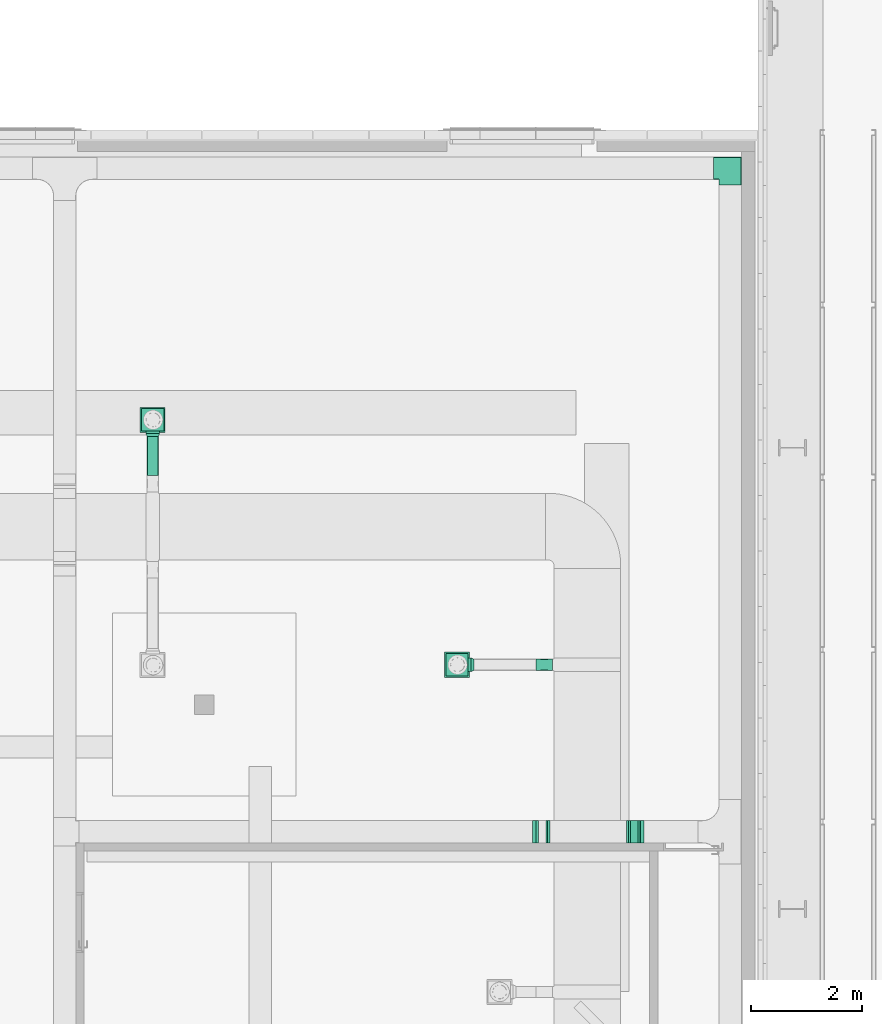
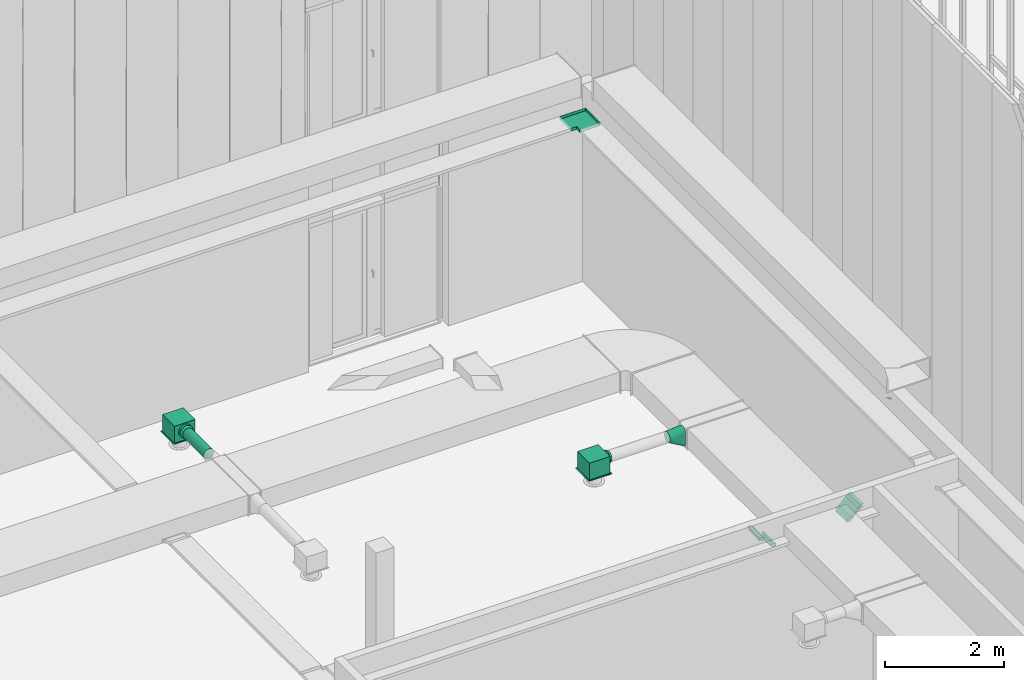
# One storey, part 285 of 302: 8 flow fittings, 2 flow segments, 2 flow terminals.
"""IFC2X3 building model written with IfcOpenShell, lengths in metres."""

from ifc_helpers import new_model, entity, si_unit, converted_unit, derived_unit, direction, frame, frame_2d, origin, origin_2d_with_axis, place, context, subcontext, project, spatial, rectangle, circle, extrude, faceted_brep, source, transform, mapped, material, material_list, type_object, type_shapes, element, save


model = new_model("IFC2X3")

# Units and contexts
model_context = context("Model", 3, precision=1e-05, world=origin(), true_north=direction((6.12303176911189e-17, 1.0)))
body_context = subcontext(model_context, "Body", "Model", "MODEL_VIEW")
ifc_project = project(units=[si_unit("LENGTHUNIT", "METRE"), si_unit("AREAUNIT", "SQUARE_METRE"), si_unit("VOLUMEUNIT", "CUBIC_METRE"), converted_unit("PLANEANGLEUNIT", "DEGREE", entity("IfcRatioMeasure", 0.0174532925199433), si_unit("PLANEANGLEUNIT", "RADIAN"), dimensions=[0, 0, 0, 0, 0, 0, 0]), si_unit("MASSUNIT", "GRAM", prefix="KILO"), derived_unit("MASSDENSITYUNIT", [(si_unit("MASSUNIT", "GRAM", prefix="KILO"), 1), (si_unit("LENGTHUNIT", "METRE"), -3)]), derived_unit("MOMENTOFINERTIAUNIT", [(si_unit("LENGTHUNIT", "METRE"), 4)]), si_unit("TIMEUNIT", "SECOND"), si_unit("FREQUENCYUNIT", "HERTZ"), si_unit("THERMODYNAMICTEMPERATUREUNIT", "DEGREE_CELSIUS"), derived_unit("THERMALTRANSMITTANCEUNIT", [(si_unit("MASSUNIT", "GRAM", prefix="KILO"), 1), (si_unit("THERMODYNAMICTEMPERATUREUNIT", "KELVIN"), -1), (si_unit("TIMEUNIT", "SECOND"), -3)]), derived_unit("VOLUMETRICFLOWRATEUNIT", [(si_unit("LENGTHUNIT", "METRE"), 3), (si_unit("TIMEUNIT", "SECOND"), -1)]), si_unit("ELECTRICCURRENTUNIT", "AMPERE"), si_unit("ELECTRICVOLTAGEUNIT", "VOLT"), si_unit("POWERUNIT", "WATT"), si_unit("FORCEUNIT", "NEWTON", prefix="KILO"), si_unit("ILLUMINANCEUNIT", "LUX"), si_unit("LUMINOUSFLUXUNIT", "LUMEN"), si_unit("LUMINOUSINTENSITYUNIT", "CANDELA"), derived_unit("USERDEFINED", [(si_unit("MASSUNIT", "GRAM", prefix="KILO"), -1), (si_unit("LENGTHUNIT", "METRE"), -2), (si_unit("TIMEUNIT", "SECOND"), 3), (si_unit("LUMINOUSFLUXUNIT", "LUMEN"), 1)]), derived_unit("LINEARVELOCITYUNIT", [(si_unit("LENGTHUNIT", "METRE"), 1), (si_unit("TIMEUNIT", "SECOND"), -1)]), si_unit("PRESSUREUNIT", "PASCAL"), derived_unit("USERDEFINED", [(si_unit("LENGTHUNIT", "METRE"), -2), (si_unit("MASSUNIT", "GRAM", prefix="KILO"), 1), (si_unit("TIMEUNIT", "SECOND"), -2)]), derived_unit("LINEARFORCEUNIT", [(si_unit("MASSUNIT", "GRAM", prefix="KILO"), 1), (si_unit("LENGTHUNIT", "METRE"), 1), (si_unit("TIMEUNIT", "SECOND"), -2), (si_unit("LENGTHUNIT", "METRE"), -1)]), derived_unit("PLANARFORCEUNIT", [(si_unit("MASSUNIT", "GRAM", prefix="KILO"), 1), (si_unit("LENGTHUNIT", "METRE"), 1), (si_unit("TIMEUNIT", "SECOND"), -2), (si_unit("LENGTHUNIT", "METRE"), -2)])], contexts=[model_context])

# Site, building, storey
site_placement = place(None, origin())
site = spatial("IfcSite", under=ifc_project, at=site_placement, Name="Default", CompositionType="ELEMENT")
building_placement = place(site_placement, origin())
building = spatial("IfcBuilding", under=site, at=building_placement, CompositionType="ELEMENT")
storey_placement = place(building_placement, frame((0.0, 0.0, -1.3)))
storey = spatial("IfcBuildingStorey", under=building, at=storey_placement, Name="00_EG", CompositionType="ELEMENT", Elevation=-1.3)

# Flow segment
cable_carrier_segment_type = type_object("IfcCableCarrierSegmentType", Name="Kabeltrasse mit Formteilen:Channel Cable Tray", PredefinedType="CABLETRAYSEGMENT")
flow_segment_1_placement = place(storey_placement, origin())
element("IfcFlowSegment", 1, at=flow_segment_1_placement, inside=storey, type_object=cable_carrier_segment_type, Name="Kabeltrasse mit Formteilen:Channel Cable Tray", ObjectType="Kabeltrasse mit Formteilen:Channel Cable Tray", context=body_context, shape_type="SweptSolid", body=[
    extrude(rectangle(XDim=0.189289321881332, YDim=0.0599999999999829, at=frame_2d((-1.20597976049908e-14, -1.24414367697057e-14), x_axis=(1.0, 0.0))), frame((-209.818029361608, 32.9190889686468, 4.74499999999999), z_axis=(0.0, 1.0, 0.0), x_axis=(0.70710678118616, 0.0, 0.707106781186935)), (0.0, 0.0, 1.0), 0.400000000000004),
])

# Flow fitting
ifc_material = material(Name="<Unnamed>")
cable_carrier_fitting_type_1 = type_object("IfcCableCarrierFittingType", Name="Kabeltrasse - Bogen (Ecke) reduzierend:Standard", PredefinedType="NOTDEFINED", material=ifc_material)
shared_shape_1 = source(origin(), body_context, "Body", "Brep", [
    faceted_brep([(-0.299999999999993, -0.200000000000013, -0.0300000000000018), (-0.299999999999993, -0.200000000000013, 0.0299999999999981), (-0.299999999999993, -0.197460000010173, 0.0299999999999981), (-0.299999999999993, -0.197460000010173, -0.0274600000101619), (-0.299999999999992, 0.197460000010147, -0.0274600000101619), (-0.299999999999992, 0.197460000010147, 0.0299999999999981), (-0.299999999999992, 0.199999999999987, 0.0299999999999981), (-0.299999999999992, 0.199999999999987, -0.0300000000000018), (0.200000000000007, 0.299999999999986, -0.0300000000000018), (-0.199999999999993, 0.299999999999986, -0.0300000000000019), (-0.199999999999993, 0.299999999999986, 0.0299999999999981), (-0.197460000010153, 0.299999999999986, 0.0299999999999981), (-0.197460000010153, 0.299999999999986, -0.0274600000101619), (0.197460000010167, 0.299999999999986, -0.0274600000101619), (0.197460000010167, 0.299999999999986, 0.0299999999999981), (0.200000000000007, 0.299999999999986, 0.0299999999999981), (0.200000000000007, -0.200000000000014, -0.0300000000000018), (0.200000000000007, -0.200000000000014, 0.0299999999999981), (0.197460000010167, -0.197460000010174, 0.0299999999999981), (0.197460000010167, -0.197460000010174, -0.0274600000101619), (-0.197460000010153, 0.197460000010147, -0.0274600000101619), (-0.197460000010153, 0.197460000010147, 0.0299999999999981), (-0.199999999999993, 0.199999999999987, 0.0299999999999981), (-0.199999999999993, 0.199999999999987, -0.0300000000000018)], [[[0, 1, 2, 3, 4, 5, 6, 7]], [[8, 9, 10, 11, 12, 13, 14, 15]], [[1, 0, 16, 17]], [[2, 1, 17, 15, 14, 18]], [[3, 2, 18, 19]], [[4, 3, 19, 13, 12, 20]], [[5, 4, 20, 21]], [[6, 5, 21, 11, 10, 22]], [[7, 6, 22, 23]], [[0, 7, 23, 9, 8, 16]], [[17, 16, 8, 15]], [[19, 18, 14, 13]], [[21, 20, 12, 11]], [[23, 22, 10, 9]]]),
])
type_shapes(cable_carrier_fitting_type_1, [shared_shape_1])
flow_fitting_1_placement = place(storey_placement, frame((-208.110111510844, 45.0580889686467, 4.85), z_axis=(0.0, 0.0, 1.0), x_axis=(0.0, 1.0, 0.0)))
element("IfcFlowFitting", 2, at=flow_fitting_1_placement, inside=storey, type_object=cable_carrier_fitting_type_1, material=ifc_material, Name="Kabeltrasse - Bogen (Ecke) reduzierend:Standard", ObjectType="Kabeltrasse - Bogen (Ecke) reduzierend:Standard", context=body_context, shape_type="MappedRepresentation", body=[
    mapped(shared_shape_1, transform((0.0, 0.0, 0.0), scale=1.0)),
])

# Flow segment
duct_segment_type = type_object("IfcDuctSegmentType", Name="Rund:STR_Segment_RND_GS_EA", PredefinedType="NOTDEFINED")
flow_segment_2_placement = place(storey_placement, origin())
element("IfcFlowSegment", 3, at=flow_segment_2_placement, inside=storey, type_object=duct_segment_type, Name="Rund:STR_Segment_RND_GS_EA", ObjectType="Rund:STR_Segment_RND_GS_EA", context=body_context, shape_type="SweptSolid", body=[
    extrude(circle(Radius=0.1, at=frame_2d((0.0, -1.62430069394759e-15), x_axis=(1.0, 0.0))), frame((-218.500835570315, 39.5332258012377, 4.985), z_axis=(0.0, 1.0, 0.0), x_axis=(-1.0, 0.0, 0.0)), (0.0, 0.0, 1.0), 0.697893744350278),
])

# Flow terminal
ifc_material_list_1 = material_list([ifc_material, ifc_material, ifc_material])
air_terminal_type_1 = type_object("IfcAirTerminalType", Name="Drallauslass Zuluft seitlich:600 quadratisch", PredefinedType="NOTDEFINED", material=ifc_material_list_1)
shared_shape_2 = source(origin(), body_context, "Body", "SweptSolid", [
    extrude(rectangle(XDim=0.449999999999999, YDim=0.450000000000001, at=origin_2d_with_axis()), frame((0.0, 0.0, 2.692), z_axis=(0.0, 0.0, 1.0), x_axis=(-1.0, 0.0, 0.0)), (0.0, 0.0, 1.0), 0.00800000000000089),
    extrude(circle(Radius=0.125, at=frame_2d((1.22275294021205e-18, 0.0), x_axis=(1.0, 0.0))), frame((-0.25, 0.0, 2.89500000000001), z_axis=(1.0, 0.0, 0.0), x_axis=(0.0, 1.0, 0.0)), (0.0, 0.0, 1.0), 0.0499999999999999),
    extrude(rectangle(XDim=0.399999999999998, YDim=0.4, at=origin_2d_with_axis()), frame((0.0, 0.0, 2.7), z_axis=(0.0, 0.0, 1.0), x_axis=(-1.0, 0.0, 0.0)), (0.0, 0.0, 1.0), 0.345000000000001),
])
type_shapes(air_terminal_type_1, [shared_shape_2])
flow_terminal_1_placement = place(storey_placement, frame((-218.500835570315, 40.5311195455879, 2.08999999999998), z_axis=(0.0, 0.0, 1.0), x_axis=(0.0, 1.0, 0.0)))
element("IfcFlowTerminal", 4, at=flow_terminal_1_placement, inside=storey, type_object=air_terminal_type_1, material=ifc_material, Name="Drallauslass Zuluft seitlich:600 quadratisch", ObjectType="Drallauslass Zuluft seitlich:600 quadratisch", context=body_context, shape_type="MappedRepresentation", body=[
    mapped(shared_shape_2, transform((0.0, 0.0, 0.0), scale=1.0)),
])

# Flow fitting
duct_fitting_type_1 = type_object("IfcDuctFittingType", Name="STR_RND_Transition:STR_Transition_RND_GS_EA", PredefinedType="NOTDEFINED", material=ifc_material)
shared_shape_3 = source(origin(), body_context, "Body", "Brep", [
    faceted_brep([(0.0500000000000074, -0.073473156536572, -0.1011271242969), (0.0500000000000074, -0.0386271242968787, -0.118882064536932), (0.0500000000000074, 0.0, -0.12500000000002), (0.0500000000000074, 0.0386271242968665, -0.11888206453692), (0.0500000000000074, 0.073473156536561, -0.101127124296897), (0.0500000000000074, 0.101127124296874, -0.0734731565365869), (0.0500000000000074, 0.1188820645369, -0.038627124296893), (0.0500000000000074, 0.124999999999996, 0.0), (0.0500000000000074, 0.118882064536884, 0.0386271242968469), (0.0500000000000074, 0.101127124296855, 0.073473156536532), (0.0500000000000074, 0.0734731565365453, 0.101127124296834), (0.0500000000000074, 0.0386271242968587, 0.118882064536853), (0.0500000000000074, 0.0, 0.12499999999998), (0.0500000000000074, -0.0386271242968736, 0.118882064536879), (0.0500000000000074, -0.0734731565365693, 0.101127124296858), (0.0500000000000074, -0.101127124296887, 0.0734731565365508), (0.0500000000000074, -0.118882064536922, 0.0386271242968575), (0.0500000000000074, -0.125000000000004, 0.0), (0.0500000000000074, -0.118882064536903, -0.0386271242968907), (0.0500000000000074, -0.101127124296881, -0.0734731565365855), (0.0, 0.0309016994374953, -0.0951056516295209), (0.0, 0.0, -0.100000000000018), (0.0, -0.0309016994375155, -0.0951056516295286), (0.0, -0.0587785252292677, -0.0809016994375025), (0.0, -0.0809016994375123, -0.0587785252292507), (0.0, -0.0951056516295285, -0.0309016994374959), (0.0, -0.100000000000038, 0.0), (0.0, -0.0951056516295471, 0.0309016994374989), (0.0, -0.0809016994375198, 0.0587785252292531), (0.0, -0.058778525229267, 0.0809016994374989), (0.0, -0.0309016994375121, 0.0951056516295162), (0.0, 0.0, 0.0999999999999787), (0.0, 0.0309016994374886, 0.0951056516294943), (0.0, 0.0587785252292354, 0.0809016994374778), (0.0, 0.0809016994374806, 0.0587785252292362), (0.0, 0.0951056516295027, 0.0309016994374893), (0.0, 0.0999999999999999, 0.0), (0.0, 0.0951056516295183, -0.0309016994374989), (0.0, 0.0809016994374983, -0.0587785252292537), (0.0, 0.0587785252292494, -0.0809016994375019)], [[[0, 1, 2, 3, 4, 5, 6, 7, 8, 9, 10, 11, 12, 13, 14, 15, 16, 17, 18, 19]], [[20, 21, 22, 23, 24, 25, 26, 27, 28, 29, 30, 31, 32, 33, 34, 35, 36, 37, 38, 39]], [[35, 34, 9, 8]], [[36, 35, 8, 7]], [[34, 33, 10, 9]], [[10, 33, 32, 11]], [[11, 32, 31, 12]], [[30, 29, 14, 13]], [[31, 30, 13, 12]], [[29, 28, 15, 14]], [[15, 28, 27, 16]], [[16, 27, 26, 17]], [[25, 24, 19, 18]], [[26, 25, 18, 17]], [[24, 23, 0, 19]], [[0, 23, 22, 1]], [[1, 22, 21, 2]], [[20, 39, 4, 3]], [[21, 20, 3, 2]], [[39, 38, 5, 4]], [[5, 38, 37, 6]], [[6, 37, 36, 7]]]),
])
type_shapes(duct_fitting_type_1, [shared_shape_3])
flow_fitting_2_placement = place(storey_placement, frame((-212.723736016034, 36.1239488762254, 4.985), z_axis=(0.0, 0.0, 1.0), x_axis=(-1.0, 0.0, 0.0)))
element("IfcFlowFitting", 5, at=flow_fitting_2_placement, inside=storey, type_object=duct_fitting_type_1, material=ifc_material, Name="STR_RND_Transition:STR_Transition_RND_GS_EA", ObjectType="STR_RND_Transition:STR_Transition_RND_GS_EA", context=body_context, shape_type="MappedRepresentation", body=[
    mapped(shared_shape_3, transform((0.0, 0.0, 0.0), scale=1.0)),
])

# Flow terminal
ifc_material_list_2 = material_list([ifc_material, ifc_material, ifc_material])
air_terminal_type_2 = type_object("IfcAirTerminalType", Name="Drallauslass Zuluft seitlich:600 quadratisch", PredefinedType="NOTDEFINED", material=ifc_material_list_2)
shared_shape_4 = source(origin(), body_context, "Body", "SweptSolid", [
    extrude(rectangle(XDim=0.450000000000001, YDim=0.449999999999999, at=origin_2d_with_axis()), frame((0.0, 0.0, 2.692), z_axis=(0.0, 0.0, 1.0), x_axis=(0.0, 1.0, 0.0)), (0.0, 0.0, 1.0), 0.00800000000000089),
    extrude(circle(Radius=0.125, at=frame_2d((1.22275294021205e-18, -5.41433564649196e-16), x_axis=(1.0, 0.0))), frame((-0.25, 0.0, 2.89500000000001), z_axis=(1.0, 0.0, 0.0), x_axis=(0.0, -1.0, 0.0)), (0.0, 0.0, 1.0), 0.0499999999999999),
    extrude(rectangle(XDim=0.4, YDim=0.399999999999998, at=origin_2d_with_axis()), frame((0.0, 0.0, 2.7), z_axis=(0.0, 0.0, 1.0), x_axis=(0.0, 1.0, 0.0)), (0.0, 0.0, 1.0), 0.345000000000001),
])
type_shapes(air_terminal_type_2, [shared_shape_4])
flow_terminal_2_placement = place(storey_placement, frame((-213.023736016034, 36.1239488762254, 2.08999999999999), z_axis=(0.0, 0.0, 1.0), x_axis=(-1.0, 0.0, 0.0)))
element("IfcFlowTerminal", 6, at=flow_terminal_2_placement, inside=storey, type_object=air_terminal_type_2, material=ifc_material, Name="Drallauslass Zuluft seitlich:600 quadratisch", ObjectType="Drallauslass Zuluft seitlich:600 quadratisch", context=body_context, shape_type="MappedRepresentation", body=[
    mapped(shared_shape_4, transform((0.0, 0.0, 0.0), scale=1.0)),
])

# Flow fittings
duct_fitting_type_2 = type_object("IfcDuctFittingType", Name="STR_RND_Transition:STR_Transition_RND_GS_EA", PredefinedType="NOTDEFINED", material=ifc_material)
shared_shape_5 = source(origin(), body_context, "Body", "Brep", [
    faceted_brep([(0.0500000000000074, -0.0587785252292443, -0.0809016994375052), (0.0500000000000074, -0.0309016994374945, -0.0951056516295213), (0.0500000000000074, 0.0, -0.10000000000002), (0.0500000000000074, 0.0309016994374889, -0.0951056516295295), (0.0500000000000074, 0.058778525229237, -0.0809016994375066), (0.0500000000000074, 0.0809016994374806, -0.0587785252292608), (0.0500000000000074, 0.0951056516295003, -0.0309016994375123), (0.0500000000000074, 0.0999999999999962, 0.0), (0.0500000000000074, 0.0951056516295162, 0.0309016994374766), (0.0500000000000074, 0.0809016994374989, 0.0587785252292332), (0.0500000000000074, 0.0587785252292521, 0.0809016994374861), (0.0500000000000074, 0.0309016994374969, 0.0951056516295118), (0.0500000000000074, 0.0, 0.0999999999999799), (0.0500000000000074, -0.0309016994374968, 0.0951056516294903), (0.0500000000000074, -0.058778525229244, 0.0809016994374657), (0.0500000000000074, -0.0809016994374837, 0.0587785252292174), (0.0500000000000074, -0.0951056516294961, 0.0309016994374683), (0.0500000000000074, -0.100000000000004, 0.0), (0.0500000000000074, -0.0951056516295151, -0.030901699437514), (0.0500000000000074, -0.0809016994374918, -0.0587785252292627), (0.0, -0.124999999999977, 0.0), (0.0, -0.118882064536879, 0.038627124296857), (0.0, -0.101127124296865, 0.073473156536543), (0.0, -0.0734731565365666, 0.101127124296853), (0.0, -0.0386271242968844, 0.118882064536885), (0.0, 0.0, 0.125000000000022), (0.0, 0.0386271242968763, 0.11888206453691), (0.0, 0.0734731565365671, 0.101127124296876), (0.0, 0.101127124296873, 0.0734731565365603), (0.0, 0.118882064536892, 0.038627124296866), (0.0, 0.124999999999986, 0.0), (0.0, 0.118882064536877, -0.0386271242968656), (0.0, 0.101127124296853, -0.0734731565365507), (0.0, 0.0734731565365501, -0.101127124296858), (0.0, 0.0386271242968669, -0.118882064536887), (0.0, 0.0, -0.124999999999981), (0.0, -0.0386271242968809, -0.118882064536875), (0.0, -0.0734731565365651, -0.101127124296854), (0.0, -0.101127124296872, -0.0734731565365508), (0.0, -0.118882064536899, -0.0386271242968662)], [[[0, 1, 2, 3, 4, 5, 6, 7, 8, 9, 10, 11, 12, 13, 14, 15, 16, 17, 18, 19]], [[20, 21, 22, 23, 24, 25, 26, 27, 28, 29, 30, 31, 32, 33, 34, 35, 36, 37, 38, 39]], [[26, 25, 12, 11]], [[27, 26, 11, 10]], [[10, 9, 28, 27]], [[8, 7, 30, 29]], [[9, 8, 29, 28]], [[21, 20, 17, 16]], [[22, 21, 16, 15]], [[15, 14, 23, 22]], [[13, 12, 25, 24]], [[14, 13, 24, 23]], [[36, 35, 2, 1]], [[37, 36, 1, 0]], [[0, 19, 38, 37]], [[18, 17, 20, 39]], [[19, 18, 39, 38]], [[31, 30, 7, 6]], [[32, 31, 6, 5]], [[5, 4, 33, 32]], [[3, 2, 35, 34]], [[4, 3, 34, 33]]]),
])
type_shapes(duct_fitting_type_2, [shared_shape_5])
flow_fitting_3_placement = place(storey_placement, frame((-218.500835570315, 40.281119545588, 4.98499999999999), z_axis=(0.0, 0.0, 1.0), x_axis=(0.0, -1.0, 0.0)))
element("IfcFlowFitting", 7, at=flow_fitting_3_placement, inside=storey, type_object=duct_fitting_type_2, material=ifc_material, Name="STR_RND_Transition:STR_Transition_RND_GS_EA", ObjectType="STR_RND_Transition:STR_Transition_RND_GS_EA", context=body_context, shape_type="MappedRepresentation", body=[
    mapped(shared_shape_5, transform((0.0, 0.0, 0.0), scale=1.0)),
])
duct_fitting_type_3 = type_object("IfcDuctFittingType", Name="STR_OVL_Transition:STR_Transition_OVL_GS_EA", PredefinedType="NOTDEFINED", material=ifc_material)
shared_shape_6 = source(origin(), body_context, "Body", "Brep", [
    faceted_brep([(0.300000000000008, 0.0999999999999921, 0.0765874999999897), (0.300000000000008, 0.0966466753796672, 0.102058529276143), (0.300000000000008, 0.0868152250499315, 0.125793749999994), (0.300000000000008, 0.0711756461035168, 0.146175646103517), (0.300000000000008, 0.0507937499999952, 0.161815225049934), (0.300000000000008, 0.0270585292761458, 0.171646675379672), (0.300000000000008, 0.00158749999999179, 0.175), (0.300000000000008, -0.00158750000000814, 0.175), (0.300000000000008, -0.0270585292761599, 0.171646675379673), (0.300000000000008, -0.0507937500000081, 0.161815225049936), (0.300000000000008, -0.0711756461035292, 0.146175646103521), (0.300000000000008, -0.0868152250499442, 0.12579375), (0.300000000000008, -0.0966466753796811, 0.102058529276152), (0.300000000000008, -0.100000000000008, 0.0765874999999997), (0.300000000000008, -0.100000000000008, 0.0734124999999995), (0.300000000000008, -0.0966466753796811, 0.0479414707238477), (0.300000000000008, -0.0868152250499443, 0.0242062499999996), (0.300000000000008, -0.0711756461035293, 0.00382435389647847), (0.300000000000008, -0.0507937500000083, -0.0118152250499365), (0.300000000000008, -0.0270585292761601, -0.0216466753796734), (0.300000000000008, -0.00158750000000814, -0.0250000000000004), (0.300000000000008, 0.0015874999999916, -0.0250000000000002), (0.300000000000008, 0.0270585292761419, -0.0216466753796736), (0.300000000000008, 0.0507937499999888, -0.011815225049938), (0.300000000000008, 0.0711756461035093, 0.00382435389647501), (0.300000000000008, 0.0868152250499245, 0.0242062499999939), (0.300000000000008, 0.0966466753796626, 0.0479414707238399), (0.300000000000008, 0.0999999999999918, 0.0734124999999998), (0.0, 0.0507937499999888, -0.186815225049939), (0.0, 0.0270585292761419, -0.196646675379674), (0.0, 0.00158749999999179, -0.200000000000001), (0.0, -0.00158750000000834, -0.200000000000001), (0.0, -0.0270585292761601, -0.196646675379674), (0.0, -0.0507937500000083, -0.186815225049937), (0.0, -0.0711756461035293, -0.171175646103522), (0.0, -0.0868152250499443, -0.150793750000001), (0.0, -0.0966466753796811, -0.127058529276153), (0.0, -0.100000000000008, -0.101587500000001), (0.0, -0.100000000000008, 0.101587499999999), (0.0, -0.0966466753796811, 0.127058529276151), (0.0, -0.0868152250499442, 0.150793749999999), (0.0, -0.0711756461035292, 0.17117564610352), (0.0, -0.0507937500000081, 0.186815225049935), (0.0, -0.0270585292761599, 0.196646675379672), (0.0, -0.00158750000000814, 0.199999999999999), (0.0, 0.00158749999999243, 0.199999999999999), (0.0, 0.0270585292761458, 0.196646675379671), (0.0, 0.0507937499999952, 0.186815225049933), (0.0, 0.0711756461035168, 0.171175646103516), (0.0, 0.0868152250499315, 0.150793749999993), (0.0, 0.0966466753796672, 0.127058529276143), (0.0, 0.100000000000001, 0.101587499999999), (0.0, 0.0999999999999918, -0.101587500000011), (0.0, 0.0966466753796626, -0.127058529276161), (0.0, 0.0868152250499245, -0.150793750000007), (0.0, 0.0711756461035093, -0.171175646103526), (0.154247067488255, -0.0203412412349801, 0.185342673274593), (0.145752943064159, -0.0981965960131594, 0.10819516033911), (0.107489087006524, -0.00158750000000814, 0.191042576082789), (0.149999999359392, -0.0614972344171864, 0.167163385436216), (0.15000000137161, -0.0392483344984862, 0.180008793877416), (0.150000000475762, -0.0796633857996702, 0.148997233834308), (0.192510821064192, -0.100000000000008, 0.0855449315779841), (0.149999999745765, -0.0925087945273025, 0.126748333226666), (0.0998539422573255, -0.100000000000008, -0.0433393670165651), (0.15000000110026, -0.0925087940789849, -0.0517483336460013), (0.150000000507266, -0.061497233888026, -0.0921633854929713), (0.149999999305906, -0.0796633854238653, -0.073997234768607), (0.153474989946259, -0.0982242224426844, -0.0306712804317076), (0.153474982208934, -0.0201983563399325, -0.108697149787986), (0.0998539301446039, -0.00158750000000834, -0.141751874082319), (0.149999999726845, -0.0392483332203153, -0.105008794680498), (0.0998539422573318, 0.0015874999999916, -0.141751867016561), (0.15000000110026, 0.0392483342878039, -0.105008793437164), (0.150000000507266, 0.0796633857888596, -0.0739972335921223), (0.149999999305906, 0.0614972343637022, -0.0921633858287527), (0.153474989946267, 0.020198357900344, -0.108697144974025), (0.153474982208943, 0.0982242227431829, -0.030671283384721), (0.0998539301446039, 0.0999999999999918, -0.0433393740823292), (0.149999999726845, 0.0925087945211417, -0.0517483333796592), (0.107489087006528, 0.0999999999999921, 0.0926300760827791), (0.154247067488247, 0.0981965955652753, 0.107487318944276), (0.145752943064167, 0.0203412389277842, 0.18605051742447), (0.149999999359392, 0.079663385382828, 0.148997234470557), (0.15000000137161, 0.0925087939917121, 0.12674833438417), (0.150000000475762, 0.0614972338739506, 0.167163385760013), (0.192510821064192, 0.00158749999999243, 0.183957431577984), (0.149999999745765, 0.0392483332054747, 0.18000879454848)], [[[0, 1, 2, 3, 4, 5, 6, 7, 8, 9, 10, 11, 12, 13, 14, 15, 16, 17, 18, 19, 20, 21, 22, 23, 24, 25, 26, 27]], [[28, 29, 30, 31, 32, 33, 34, 35, 36, 37, 38, 39, 40, 41, 42, 43, 44, 45, 46, 47, 48, 49, 50, 51, 52, 53, 54, 55]], [[56, 44, 43]], [[38, 57, 39]], [[56, 7, 58, 44]], [[42, 41, 59]], [[43, 60, 56]], [[59, 60, 42]], [[61, 59, 41]], [[43, 42, 60]], [[8, 56, 60]], [[10, 9, 59]], [[9, 60, 59]], [[57, 38, 62, 13]], [[40, 39, 63]], [[63, 61, 40]], [[12, 57, 13]], [[12, 63, 57]], [[9, 8, 60]], [[10, 61, 11]], [[12, 11, 63]], [[63, 11, 61]], [[39, 57, 63]], [[61, 10, 59]], [[61, 41, 40]], [[7, 56, 8]], [[14, 13, 62, 38, 37, 64]], [[36, 35, 65]], [[66, 67, 34]], [[36, 68, 64]], [[35, 34, 67]], [[36, 64, 37]], [[20, 69, 70]], [[67, 65, 35]], [[31, 70, 32]], [[68, 65, 15]], [[16, 15, 65]], [[16, 65, 67]], [[32, 69, 71]], [[33, 32, 71]], [[71, 66, 33]], [[19, 69, 20]], [[69, 19, 71]], [[36, 65, 68]], [[17, 66, 18]], [[19, 18, 71]], [[71, 18, 66]], [[70, 69, 32]], [[14, 64, 68]], [[66, 17, 67]], [[66, 34, 33]], [[14, 68, 15]], [[17, 16, 67]], [[30, 72, 21, 20, 70, 31]], [[29, 28, 73]], [[74, 75, 55]], [[29, 76, 72]], [[28, 55, 75]], [[29, 72, 30]], [[27, 77, 78]], [[75, 73, 28]], [[52, 78, 53]], [[76, 73, 22]], [[23, 22, 73]], [[23, 73, 75]], [[53, 77, 79]], [[54, 53, 79]], [[79, 74, 54]], [[26, 77, 27]], [[77, 26, 79]], [[29, 73, 76]], [[24, 74, 25]], [[26, 25, 79]], [[79, 25, 74]], [[78, 77, 53]], [[21, 72, 76]], [[74, 24, 75]], [[74, 55, 54]], [[21, 76, 22]], [[24, 23, 75]], [[51, 80, 0, 27, 78, 52]], [[81, 51, 50]], [[45, 82, 46]], [[81, 0, 80, 51]], [[49, 48, 83]], [[50, 84, 81]], [[83, 84, 49]], [[85, 83, 48]], [[50, 49, 84]], [[1, 81, 84]], [[3, 2, 83]], [[2, 84, 83]], [[82, 45, 86, 6]], [[47, 46, 87]], [[87, 85, 47]], [[5, 82, 6]], [[5, 87, 82]], [[2, 1, 84]], [[3, 85, 4]], [[5, 4, 87]], [[87, 4, 85]], [[46, 82, 87]], [[85, 3, 83]], [[85, 48, 47]], [[0, 81, 1]], [[44, 58, 7, 6, 86, 45]]]),
])
type_shapes(duct_fitting_type_3, [shared_shape_6])
flow_fitting_4_placement = place(storey_placement, frame((-211.304540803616, 36.1239488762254, 4.91), z_axis=(0.0, 0.0, 1.0), x_axis=(-1.0, 0.0, 0.0)))
element("IfcFlowFitting", 8, at=flow_fitting_4_placement, inside=storey, type_object=duct_fitting_type_3, material=ifc_material, Name="STR_OVL_Transition:STR_Transition_OVL_GS_EA", ObjectType="STR_OVL_Transition:STR_Transition_OVL_GS_EA", context=body_context, shape_type="MappedRepresentation", body=[
    mapped(shared_shape_6, transform((0.0, 0.0, 0.0), scale=1.0)),
])
cable_carrier_fitting_type_2 = type_object("IfcCableCarrierFittingType", Name="Kabeltrasse - Bogen (Ecke) reduzierend:Standard", PredefinedType="NOTDEFINED", material=ifc_material)
shared_shape_7 = source(origin(), body_context, "Body", "Brep", [
    faceted_brep([(-0.0538477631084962, -0.0300000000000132, -0.200000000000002), (-0.0538477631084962, -0.0300000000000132, 0.199999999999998), (-0.0538477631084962, -0.027460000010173, 0.199999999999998), (-0.0538477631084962, -0.027460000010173, -0.197460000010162), (-0.0538477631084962, 0.027460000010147, -0.197460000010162), (-0.0538477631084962, 0.027460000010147, 0.199999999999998), (-0.0538477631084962, 0.0299999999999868, 0.199999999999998), (-0.0538477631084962, 0.0299999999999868, -0.200000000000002), (0.0592893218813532, 0.016862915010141, -0.200000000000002), (0.0168629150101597, 0.0592893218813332, -0.200000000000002), (0.0168629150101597, 0.0592893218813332, 0.199999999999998), (0.0186589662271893, 0.0574932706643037, 0.199999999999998), (0.0186589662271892, 0.0574932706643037, -0.197460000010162), (0.0574932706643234, 0.0186589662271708, -0.197460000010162), (0.0574932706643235, 0.0186589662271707, 0.199999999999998), (0.0592893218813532, 0.016862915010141, 0.199999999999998), (0.0124264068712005, -0.0300000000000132, -0.200000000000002), (0.0124264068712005, -0.0300000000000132, 0.199999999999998), (0.0113743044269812, -0.027460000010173, 0.199999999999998), (0.0113743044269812, -0.027460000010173, -0.197460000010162), (-0.0113743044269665, 0.027460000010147, -0.197460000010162), (-0.0113743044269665, 0.027460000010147, 0.199999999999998), (-0.0124264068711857, 0.0299999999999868, 0.199999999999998), (-0.0124264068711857, 0.0299999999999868, -0.200000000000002)], [[[0, 1, 2, 3, 4, 5, 6, 7]], [[8, 9, 10, 11, 12, 13, 14, 15]], [[1, 0, 16, 17]], [[2, 1, 17, 15, 14, 18]], [[3, 2, 18, 19]], [[4, 3, 19, 13, 12, 20]], [[5, 4, 20, 21]], [[6, 5, 21, 11, 10, 22]], [[7, 6, 22, 23]], [[0, 7, 23, 9, 8, 16]], [[17, 16, 8, 15]], [[19, 18, 14, 13]], [[21, 20, 12, 11]], [[23, 22, 10, 9]]]),
])
type_shapes(cable_carrier_fitting_type_2, [shared_shape_7])
for number, where, z_axis, x_axis, name in (
    (9, (-209.713029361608, 33.1190889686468, 4.85000000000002), (0.0, -1.0, 0.0), (-1.0, 0.0, 0.0), "Kabeltrasse - Bogen (Ecke) reduzierend:Standard"),
    (10, (-209.923029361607, 33.1190889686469, 4.63999999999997), (0.0, 1.0, 0.0), (-0.70710678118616, 0.0, -0.707106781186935), "Kabeltrasse - Bogen (Ecke) reduzierend:Standard"),
    (11, (-211.617193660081, 33.1190889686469, 4.84999999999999), (0.0, 1.0, 0.0), (1.0, 0.0, 0.0), "Kabeltrasse - Bogen (Ecke) reduzierend:Standard"),
    (12, (-211.407193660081, 33.1190889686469, 4.63999999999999), (0.0, 1.0, 0.0), (-1.0, 0.0, 0.0), "Kabeltrasse - Bogen (Ecke) reduzierend:Standard"),
):
    element("IfcFlowFitting", number, at=place(storey_placement, frame(where, z_axis=z_axis, x_axis=x_axis)), inside=storey, type_object=cable_carrier_fitting_type_2, material=ifc_material, Name=name, ObjectType="Kabeltrasse - Bogen (Ecke) reduzierend:Standard", context=body_context, shape_type="MappedRepresentation", body=[
        mapped(shared_shape_7, transform((0.0, 0.0, 0.0), scale=1.0)),
    ])

save(model, "model.ifc")
